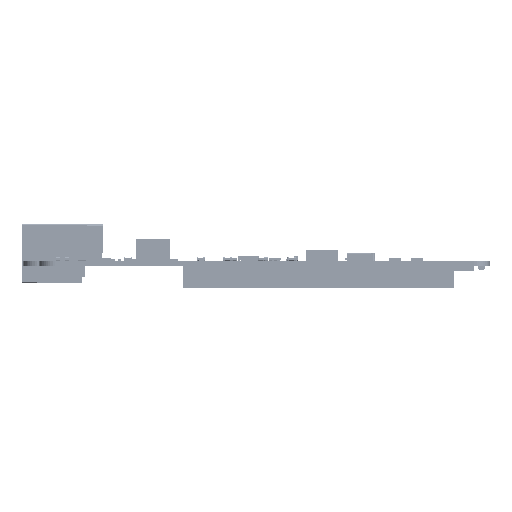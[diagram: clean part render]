
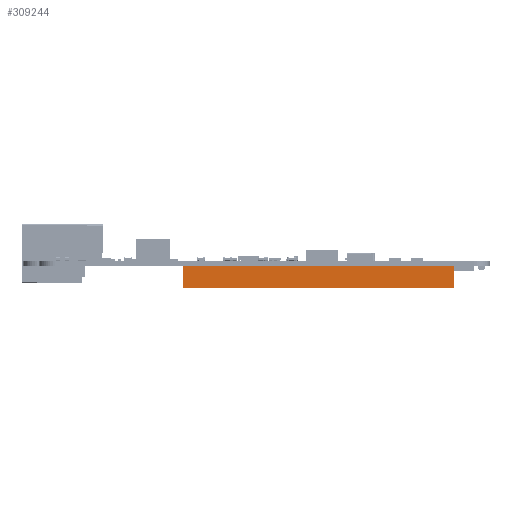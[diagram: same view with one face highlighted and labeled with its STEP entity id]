
A CAD part, front view. The second image highlights one B-rep face of the part: STEP entity #309244.
In plain terms, the highlighted planar face has unit normal (0, -1, 0) as drawn and (0, 0, 1) by its records, which use the part's own axes.
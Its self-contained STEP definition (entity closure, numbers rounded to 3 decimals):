
#269393 = PLANE('',#269394);
#269394 = AXIS2_PLACEMENT_3D('',#269395,#269396,#269397);
#269395 = CARTESIAN_POINT('',(-25.65,0.4,2.1));
#269396 = DIRECTION('',(0.,-1.,0.));
#269397 = DIRECTION('',(0.,0.,-1.));
#269418 = VERTEX_POINT('',#269419);
#269419 = CARTESIAN_POINT('',(25.65,0.4,2.6));
#269433 = PLANE('',#269434);
#269434 = AXIS2_PLACEMENT_3D('',#269435,#269436,#269437);
#269435 = CARTESIAN_POINT('',(25.65,2.52,0.)
  );
#269436 = DIRECTION('',(1.,0.,0.));
#269437 = DIRECTION('',(0.,0.,-1.));
#269445 = EDGE_CURVE('',#269446,#269418,#269448,.T.);
#269446 = VERTEX_POINT('',#269447);
#269447 = CARTESIAN_POINT('',(-25.65,0.4,2.6));
#269448 = SURFACE_CURVE('',#269449,(#269453,#269460),.PCURVE_S1.);
#269449 = LINE('',#269450,#269451);
#269450 = CARTESIAN_POINT('',(-25.65,0.4,2.6));
#269451 = VECTOR('',#269452,1.);
#269452 = DIRECTION('',(1.,0.,0.));
#269453 = PCURVE('',#269393,#269454);
#269454 = DEFINITIONAL_REPRESENTATION('',(#269455),#269459);
#269455 = LINE('',#269456,#269457);
#269456 = CARTESIAN_POINT('',(-0.5,0.));
#269457 = VECTOR('',#269458,1.);
#269458 = DIRECTION('',(0.,1.));
#269459 = ( GEOMETRIC_REPRESENTATION_CONTEXT(2) 
PARAMETRIC_REPRESENTATION_CONTEXT() REPRESENTATION_CONTEXT('2D SPACE',''
  ) );
#269460 = PCURVE('',#269461,#269466);
#269461 = PLANE('',#269462);
#269462 = AXIS2_PLACEMENT_3D('',#269463,#269464,#269465);
#269463 = CARTESIAN_POINT('',(-25.65,0.4,2.6));
#269464 = DIRECTION('',(0.,0.,1.));
#269465 = DIRECTION('',(0.,-1.,0.));
#269466 = DEFINITIONAL_REPRESENTATION('',(#269467),#269471);
#269467 = LINE('',#269468,#269469);
#269468 = CARTESIAN_POINT('',(0.,0.));
#269469 = VECTOR('',#269470,1.);
#269470 = DIRECTION('',(0.,1.));
#269471 = ( GEOMETRIC_REPRESENTATION_CONTEXT(2) 
PARAMETRIC_REPRESENTATION_CONTEXT() REPRESENTATION_CONTEXT('2D SPACE',''
  ) );
#269489 = PLANE('',#269490);
#269490 = AXIS2_PLACEMENT_3D('',#269491,#269492,#269493);
#269491 = CARTESIAN_POINT('',(-25.65,2.52,0.)
  );
#269492 = DIRECTION('',(1.,0.,0.));
#269493 = DIRECTION('',(0.,0.,-1.));
#285087 = PLANE('',#285088);
#285088 = AXIS2_PLACEMENT_3D('',#285089,#285090,#285091);
#285089 = CARTESIAN_POINT('',(-25.65,5.,2.6));
#285090 = DIRECTION('',(0.,1.,0.));
#285091 = DIRECTION('',(0.,0.,1.));
#309244 = ADVANCED_FACE('',(#309245),#269461,.T.);
#309245 = FACE_BOUND('',#309246,.T.);
#309246 = EDGE_LOOP('',(#309247,#309270,#309293,#309314));
#309247 = ORIENTED_EDGE('',*,*,#309248,.T.);
#309248 = EDGE_CURVE('',#269418,#309249,#309251,.T.);
#309249 = VERTEX_POINT('',#309250);
#309250 = CARTESIAN_POINT('',(25.65,5.,2.6));
#309251 = SURFACE_CURVE('',#309252,(#309256,#309263),.PCURVE_S1.);
#309252 = LINE('',#309253,#309254);
#309253 = CARTESIAN_POINT('',(25.65,5.,2.6));
#309254 = VECTOR('',#309255,1.);
#309255 = DIRECTION('',(0.,1.,0.));
#309256 = PCURVE('',#269461,#309257);
#309257 = DEFINITIONAL_REPRESENTATION('',(#309258),#309262);
#309258 = LINE('',#309259,#309260);
#309259 = CARTESIAN_POINT('',(-4.6,51.3));
#309260 = VECTOR('',#309261,1.);
#309261 = DIRECTION('',(-1.,0.));
#309262 = ( GEOMETRIC_REPRESENTATION_CONTEXT(2) 
PARAMETRIC_REPRESENTATION_CONTEXT() REPRESENTATION_CONTEXT('2D SPACE',''
  ) );
#309263 = PCURVE('',#269433,#309264);
#309264 = DEFINITIONAL_REPRESENTATION('',(#309265),#309269);
#309265 = LINE('',#309266,#309267);
#309266 = CARTESIAN_POINT('',(-2.6,2.48));
#309267 = VECTOR('',#309268,1.);
#309268 = DIRECTION('',(0.,1.));
#309269 = ( GEOMETRIC_REPRESENTATION_CONTEXT(2) 
PARAMETRIC_REPRESENTATION_CONTEXT() REPRESENTATION_CONTEXT('2D SPACE',''
  ) );
#309270 = ORIENTED_EDGE('',*,*,#309271,.F.);
#309271 = EDGE_CURVE('',#309272,#309249,#309274,.T.);
#309272 = VERTEX_POINT('',#309273);
#309273 = CARTESIAN_POINT('',(-25.65,5.,2.6));
#309274 = SURFACE_CURVE('',#309275,(#309279,#309286),.PCURVE_S1.);
#309275 = LINE('',#309276,#309277);
#309276 = CARTESIAN_POINT('',(-25.65,5.,2.6));
#309277 = VECTOR('',#309278,1.);
#309278 = DIRECTION('',(1.,0.,0.));
#309279 = PCURVE('',#269461,#309280);
#309280 = DEFINITIONAL_REPRESENTATION('',(#309281),#309285);
#309281 = LINE('',#309282,#309283);
#309282 = CARTESIAN_POINT('',(-4.6,0.));
#309283 = VECTOR('',#309284,1.);
#309284 = DIRECTION('',(0.,1.));
#309285 = ( GEOMETRIC_REPRESENTATION_CONTEXT(2) 
PARAMETRIC_REPRESENTATION_CONTEXT() REPRESENTATION_CONTEXT('2D SPACE',''
  ) );
#309286 = PCURVE('',#285087,#309287);
#309287 = DEFINITIONAL_REPRESENTATION('',(#309288),#309292);
#309288 = LINE('',#309289,#309290);
#309289 = CARTESIAN_POINT('',(0.,0.));
#309290 = VECTOR('',#309291,1.);
#309291 = DIRECTION('',(0.,1.));
#309292 = ( GEOMETRIC_REPRESENTATION_CONTEXT(2) 
PARAMETRIC_REPRESENTATION_CONTEXT() REPRESENTATION_CONTEXT('2D SPACE',''
  ) );
#309293 = ORIENTED_EDGE('',*,*,#309294,.T.);
#309294 = EDGE_CURVE('',#309272,#269446,#309295,.T.);
#309295 = SURFACE_CURVE('',#309296,(#309300,#309307),.PCURVE_S1.);
#309296 = LINE('',#309297,#309298);
#309297 = CARTESIAN_POINT('',(-25.65,5.,2.6));
#309298 = VECTOR('',#309299,1.);
#309299 = DIRECTION('',(0.,-1.,0.));
#309300 = PCURVE('',#269461,#309301);
#309301 = DEFINITIONAL_REPRESENTATION('',(#309302),#309306);
#309302 = LINE('',#309303,#309304);
#309303 = CARTESIAN_POINT('',(-4.6,0.));
#309304 = VECTOR('',#309305,1.);
#309305 = DIRECTION('',(1.,0.));
#309306 = ( GEOMETRIC_REPRESENTATION_CONTEXT(2) 
PARAMETRIC_REPRESENTATION_CONTEXT() REPRESENTATION_CONTEXT('2D SPACE',''
  ) );
#309307 = PCURVE('',#269489,#309308);
#309308 = DEFINITIONAL_REPRESENTATION('',(#309309),#309313);
#309309 = LINE('',#309310,#309311);
#309310 = CARTESIAN_POINT('',(-2.6,2.48));
#309311 = VECTOR('',#309312,1.);
#309312 = DIRECTION('',(0.,-1.));
#309313 = ( GEOMETRIC_REPRESENTATION_CONTEXT(2) 
PARAMETRIC_REPRESENTATION_CONTEXT() REPRESENTATION_CONTEXT('2D SPACE',''
  ) );
#309314 = ORIENTED_EDGE('',*,*,#269445,.T.);
